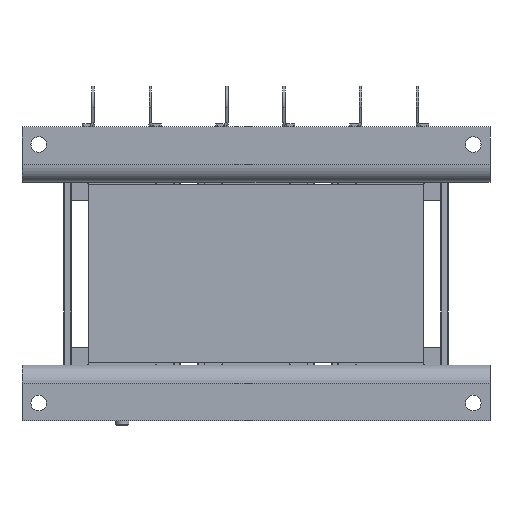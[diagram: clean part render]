
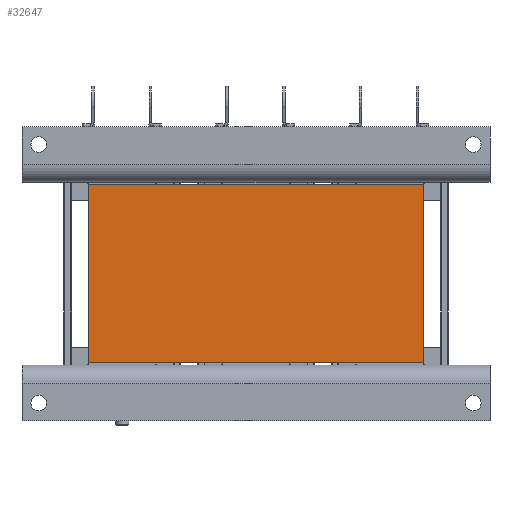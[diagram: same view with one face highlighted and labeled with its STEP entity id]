
A CAD part, front view. The second image highlights one B-rep face of the part: STEP entity #32647.
In plain terms, the highlighted planar face has unit normal (0, -1, 0).
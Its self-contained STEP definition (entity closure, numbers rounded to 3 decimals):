
#1444=LINE('',#50285,#4320);
#1445=LINE('',#50287,#4321);
#1446=LINE('',#50289,#4322);
#1447=LINE('',#50290,#4323);
#4320=VECTOR('',#39239,10.);
#4321=VECTOR('',#39240,10.);
#4322=VECTOR('',#39241,10.);
#4323=VECTOR('',#39242,10.);
#6803=PLANE('',#34897);
#8541=FACE_OUTER_BOUND('',#10500,.T.);
#10500=EDGE_LOOP('',(#22940,#22941,#22942,#22943));
#14216=VERTEX_POINT('',#50283);
#14217=VERTEX_POINT('',#50284);
#14218=VERTEX_POINT('',#50286);
#14219=VERTEX_POINT('',#50288);
#17600=EDGE_CURVE('',#14216,#14217,#1444,.T.);
#17601=EDGE_CURVE('',#14218,#14216,#1445,.T.);
#17602=EDGE_CURVE('',#14218,#14219,#1446,.T.);
#17603=EDGE_CURVE('',#14217,#14219,#1447,.T.);
#22940=ORIENTED_EDGE('',*,*,#17600,.F.);
#22941=ORIENTED_EDGE('',*,*,#17601,.F.);
#22942=ORIENTED_EDGE('',*,*,#17602,.T.);
#22943=ORIENTED_EDGE('',*,*,#17603,.F.);
#32647=ADVANCED_FACE('',(#8541),#6803,.T.);
#34897=AXIS2_PLACEMENT_3D('',#50282,#39237,#39238);
#39237=DIRECTION('center_axis',(0.,-1.,0.));
#39238=DIRECTION('ref_axis',(1.,0.,0.));
#39239=DIRECTION('',(0.,0.,1.));
#39240=DIRECTION('',(-1.,0.,0.));
#39241=DIRECTION('',(0.,0.,1.));
#39242=DIRECTION('',(1.,0.,0.));
#50282=CARTESIAN_POINT('Origin',(-75.,-75.02,0.));
#50283=CARTESIAN_POINT('',(-75.,-75.02,-40.));
#50284=CARTESIAN_POINT('',(-75.,-75.02,40.));
#50285=CARTESIAN_POINT('',(-75.,-75.02,0.));
#50286=CARTESIAN_POINT('',(75.,-75.02,-40.));
#50287=CARTESIAN_POINT('',(-75.,-75.02,-40.));
#50288=CARTESIAN_POINT('',(75.,-75.02,40.));
#50289=CARTESIAN_POINT('',(75.,-75.02,0.));
#50290=CARTESIAN_POINT('',(-75.,-75.02,40.));
